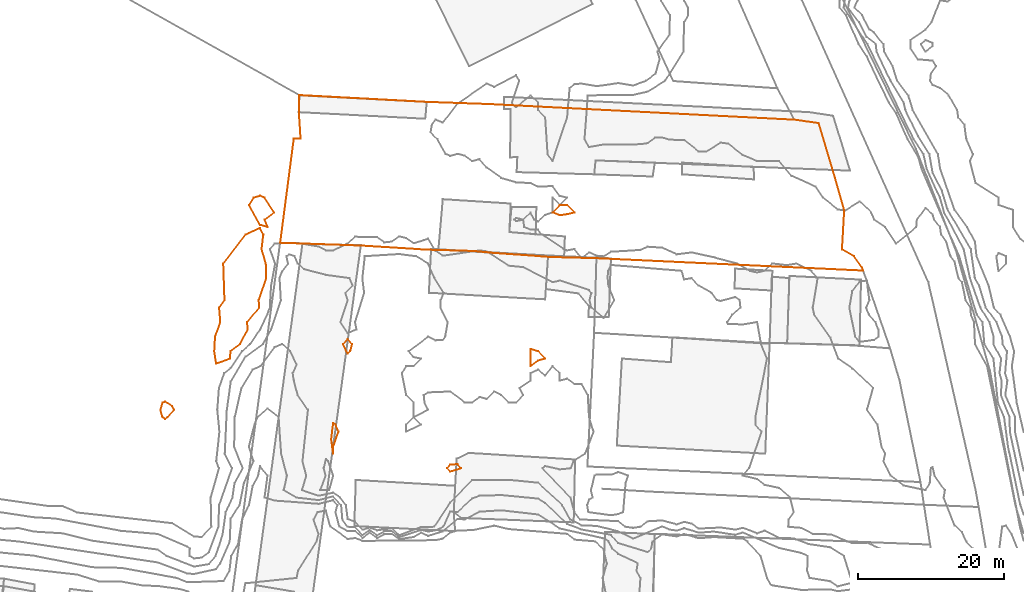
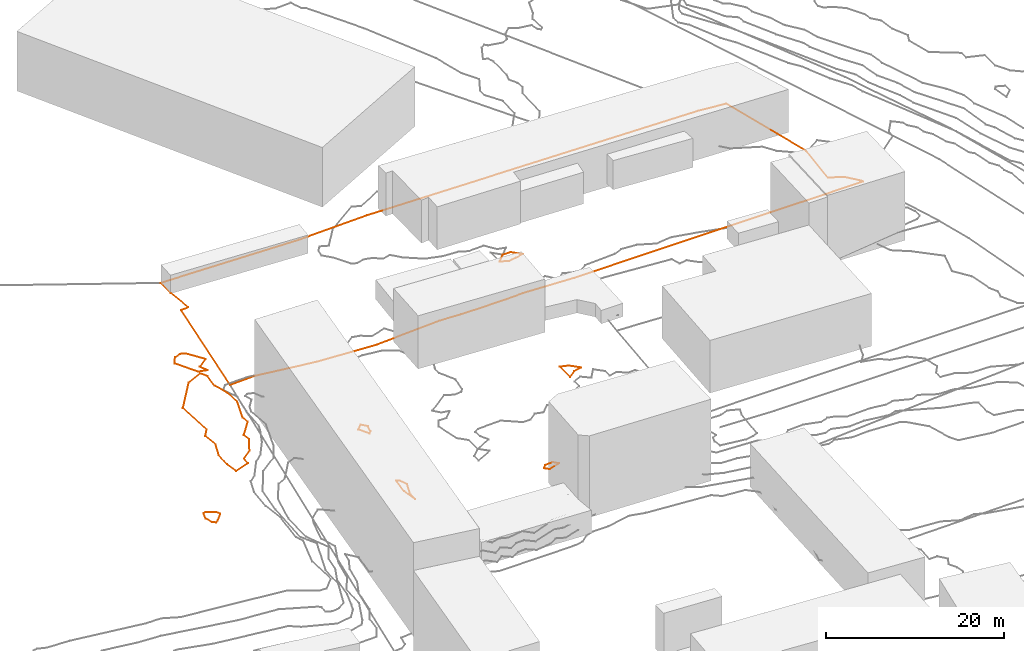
# Not in any storey, part 332 of 419: 9 proxies.
"""IFC2X3 model written with IfcOpenShell, lengths in metres."""

from ifc_helpers import new_model, entity, si_unit, frame, origin_with_axes, place, context, subcontext, project, element, save


model = new_model("IFC2X3")

# Units and contexts
model_context = context("Model", 3, precision=1e-05, world=origin_with_axes())
body_context = subcontext(model_context, "Body", "Model", "MODEL_VIEW")
ifc_project = project(units=[si_unit("AREAUNIT", "SQUARE_METRE"), si_unit("LENGTHUNIT", "METRE")], contexts=[model_context])

# Proxies
proxy_1_placement = place(None, frame((525.8420204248, 958.7376909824, 49.6969004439), z_axis=(0.0, 0.0, 1.0), x_axis=(1.0, 0.0, 0.0)))
element("IfcBuildingElementProxy", 1, at=proxy_1_placement, Name="Cadastre 275", ObjectType="NOTDEFINED", context=body_context, shape_type="GeometricCurveSet", body=[
    entity("IfcGeometricCurveSet", [entity("IfcPolyline", [entity("IfcCartesianPoint", [2.62, 20.2000000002, 0.783397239]), entity("IfcCartesianPoint", [20.01, 19.2700000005, 1.1748405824]), entity("IfcCartesianPoint", [28.66, 18.9700000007, 1.6812932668]), entity("IfcCartesianPoint", [70.3300000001, 16.8300000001, 2.7082691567]), entity("IfcCartesianPoint", [73.66, 16.3700000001, 2.7848041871]), entity("IfcCartesianPoint", [75.9, 8.8700000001, 2.4298698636]), entity("IfcCartesianPoint", [77.15, 4.5100000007, 2.2882003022]), entity("IfcCartesianPoint", [76.84, -0.8999999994, 2.0283280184]), entity("IfcCartesianPoint", [78.47, -1.8399999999, 2.0852997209]), entity("IfcCartesianPoint", [79.5800000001, -3.3700000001, 2.1694090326]), entity("IfcCartesianPoint", [79.75, -3.7999999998, 2.2390999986]), entity("IfcCartesianPoint", [43.27, -2.1099999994, 0.7771266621]), entity("IfcCartesianPoint", [36.8, -1.9399999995, 0.8673004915]), entity("IfcCartesianPoint", [34.63, -1.7699999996, 0.6467991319]), entity("IfcCartesianPoint", [29.09, -1.3799999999, 0.3148993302]), entity("IfcCartesianPoint", [26.4300000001, -1.1200000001, 0.2225002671]), entity("IfcCartesianPoint", [19.6800000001, -0.9299999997, -0.3013186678]), entity("IfcCartesianPoint", [18.49, -0.8399999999, -0.4497998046]), entity("IfcCartesianPoint", [11.05, -0.3799999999, -0.4568604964]), entity("IfcCartesianPoint", [3.0700000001, -0.0999999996, 0.2156106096]), entity("IfcCartesianPoint", [0.0, 0.0, 0.0]), entity("IfcCartesianPoint", [1.87, 14.25, 0.957575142]), entity("IfcCartesianPoint", [2.8, 14.2800000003, 0.9773985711]), entity("IfcCartesianPoint", [2.5700000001, 17.8200000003, 0.8871875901]), entity("IfcCartesianPoint", [2.62, 20.2000000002, 0.783397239])])]),
])
proxy_2_placement = place(None, frame((563.0920704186, 962.8976909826, 51.0), z_axis=(0.0, 0.0, 1.0), x_axis=(1.0, 0.0, 0.0)))
element("IfcBuildingElementProxy", 2, at=proxy_2_placement, Name="Contour 51.0 m", ObjectType="NOTDEFINED", context=body_context, shape_type="GeometricCurveSet", body=[
    entity("IfcGeometricCurveSet", [entity("IfcPolyline", [entity("IfcCartesianPoint", [1.9999500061, -0.2499761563, 0.0]), entity("IfcCartesianPoint", [2.9998500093, 0.0, 0.0]), entity("IfcCartesianPoint", [1.9999500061, 0.999900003, 0.0]), entity("IfcCartesianPoint", [0.9999500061, 0.9999500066, 0.0]), entity("IfcCartesianPoint", [0.0, 0.0, 0.0]), entity("IfcCartesianPoint", [0.9999500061, -0.4000152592, 0.0]), entity("IfcCartesianPoint", [1.9999500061, -0.2499761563, 0.0])])]),
])
proxy_3_placement = place(None, frame((521.5920037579, 963.8976909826, 51.0), z_axis=(0.0, 0.0, 1.0), x_axis=(1.0, 0.0, 0.0)))
element("IfcBuildingElementProxy", 3, at=proxy_3_placement, Name="Contour 51.0 m", ObjectType="NOTDEFINED", context=body_context, shape_type="GeometricCurveSet", body=[
    entity("IfcGeometricCurveSet", [entity("IfcPolyline", [entity("IfcCartesianPoint", [2.5588309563, -3.0, 0.0]), entity("IfcCartesianPoint", [1.5000166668, -2.7142779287, 0.0]), entity("IfcCartesianPoint", [0.0, 0.0, 0.0]), entity("IfcCartesianPoint", [0.6428504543, 1.0, 0.0]), entity("IfcCartesianPoint", [1.5000166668, 1.285716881, 0.0]), entity("IfcCartesianPoint", [2.1000166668, 1.0, 0.0]), entity("IfcCartesianPoint", [3.4444693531, -1.0, 0.0]), entity("IfcCartesianPoint", [2.1250226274, -2.0, 0.0]), entity("IfcCartesianPoint", [2.5588309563, -3.0, 0.0])])]),
])
proxy_4_placement = place(None, frame((534.4253537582, 944.8976909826, 49.0), z_axis=(0.0, 0.0, 1.0), x_axis=(1.0, 0.0, 0.0)))
element("IfcBuildingElementProxy", 4, at=proxy_4_placement, Name="Contour 49.0 m", ObjectType="NOTDEFINED", context=body_context, shape_type="GeometricCurveSet", body=[
    entity("IfcGeometricCurveSet", [entity("IfcPolyline", [entity("IfcCartesianPoint", [0.9999858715, -1.0, 0.0]), entity("IfcCartesianPoint", [0.6666666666, -1.3333192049, 0.0]), entity("IfcCartesianPoint", [0.0, 0.0, 0.0]), entity("IfcCartesianPoint", [0.6666666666, 0.666666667, 0.0]), entity("IfcCartesianPoint", [1.2381108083, 0.0, 0.0]), entity("IfcCartesianPoint", [0.9999858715, -1.0, 0.0])])]),
])
proxy_5_placement = place(None, frame((560.0920204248, 941.8977909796, 49.0), z_axis=(0.0, 0.0, 1.0), x_axis=(1.0, 0.0, 0.0)))
element("IfcBuildingElementProxy", 5, at=proxy_5_placement, Name="Contour 49.0 m", ObjectType="NOTDEFINED", context=body_context, shape_type="GeometricCurveSet", body=[
    entity("IfcGeometricCurveSet", [entity("IfcPolyline", [entity("IfcCartesianPoint", [1.0, 0.7499238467, 0.0]), entity("IfcCartesianPoint", [1.9999000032, 0.999900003, 0.0]), entity("IfcCartesianPoint", [0.9999000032, 1.999900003, 0.0]), entity("IfcCartesianPoint", [0.0, 2.3331909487, 0.0]), entity("IfcCartesianPoint", [0.0, 0.0, 0.0]), entity("IfcCartesianPoint", [1.0, 0.7499238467, 0.0])])]),
])
proxy_6_placement = place(None, frame((516.8311443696, 943.8976909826, 51.0), z_axis=(0.0, 0.0, 1.0), x_axis=(1.0, 0.0, 0.0)))
element("IfcBuildingElementProxy", 6, at=proxy_6_placement, Name="Contour 51.0 m", ObjectType="NOTDEFINED", context=body_context, shape_type="GeometricCurveSet", body=[
    entity("IfcGeometricCurveSet", [entity("IfcPolyline", [entity("IfcCartesianPoint", [2.1894591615, -1.0, 0.0]), entity("IfcCartesianPoint", [0.2608760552, -1.666666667, 0.0]), entity("IfcCartesianPoint", [0.0, 0.0, 0.0]), entity("IfcCartesianPoint", [0.11087987, 2.0, 0.0]), entity("IfcCartesianPoint", [0.8275380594, 4.0, 0.0]), entity("IfcCartesianPoint", [0.6726434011, 6.0, 0.0]), entity("IfcCartesianPoint", [1.4037357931, 7.0, 0.0]), entity("IfcCartesianPoint", [1.2314692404, 12.0, 0.0]), entity("IfcCartesianPoint", [4.2608760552, 15.9523887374, 0.0]), entity("IfcCartesianPoint", [6.2608760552, 16.8823516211, 0.0]), entity("IfcCartesianPoint", [6.7154236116, 16.0, 0.0]), entity("IfcCartesianPoint", [6.4729968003, 14.0, 0.0]), entity("IfcCartesianPoint", [7.0530841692, 12.0, 0.0]), entity("IfcCartesianPoint", [7.1164306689, 10.0, 0.0]), entity("IfcCartesianPoint", [6.0772029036, 7.0, 0.0]), entity("IfcCartesianPoint", [6.16563623, 6.0, 0.0]), entity("IfcCartesianPoint", [4.4942089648, 4.0, 0.0]), entity("IfcCartesianPoint", [4.584407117, 3.0, 0.0]), entity("IfcCartesianPoint", [3.5033045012, 1.0, 0.0]), entity("IfcCartesianPoint", [2.2053287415, 0.0, 0.0]), entity("IfcCartesianPoint", [2.1894591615, -1.0, 0.0])])]),
])
proxy_7_placement = place(None, frame((509.4670293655, 935.8976909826, 51.0), z_axis=(0.0, 0.0, 1.0), x_axis=(1.0, 0.0, 0.0)))
element("IfcBuildingElementProxy", 7, at=proxy_7_placement, Name="Contour 51.0 m", ObjectType="NOTDEFINED", context=body_context, shape_type="GeometricCurveSet", body=[
    entity("IfcGeometricCurveSet", [entity("IfcPolyline", [entity("IfcCartesianPoint", [0.9779361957, -1.0, 0.0]), entity("IfcCartesianPoint", [0.6249910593, -1.2400054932, 0.0]), entity("IfcCartesianPoint", [0.2720459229, -1.0, 0.0]), entity("IfcCartesianPoint", [0.0, 0.0, 0.0]), entity("IfcCartesianPoint", [0.2916577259, 1.0, 0.0]), entity("IfcCartesianPoint", [0.6249910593, 1.100001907, 0.0]), entity("IfcCartesianPoint", [1.6249910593, 0.5000083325, 0.0]), entity("IfcCartesianPoint", [1.8977230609, 0.0, 0.0]), entity("IfcCartesianPoint", [0.9779361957, -1.0, 0.0])])]),
])
proxy_8_placement = place(None, frame((532.8227890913, 931.8976909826, 49.0), z_axis=(0.0, 0.0, 1.0), x_axis=(1.0, 0.0, 0.0)))
element("IfcBuildingElementProxy", 8, at=proxy_8_placement, Name="Contour 49.0 m", ObjectType="NOTDEFINED", context=body_context, shape_type="GeometricCurveSet", body=[
    entity("IfcGeometricCurveSet", [entity("IfcPolyline", [entity("IfcCartesianPoint", [0.2692390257, -2.0, 0.0]), entity("IfcCartesianPoint", [0.0, 0.0, 0.0]), entity("IfcCartesianPoint", [0.2692313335, 2.1999694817, 0.0]), entity("IfcCartesianPoint", [0.6025222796, 2.0, 0.0]), entity("IfcCartesianPoint", [0.9835092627, 1.0, 0.0]), entity("IfcCartesianPoint", [0.2692390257, -1.0, 0.0]), entity("IfcCartesianPoint", [0.2692390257, -2.0, 0.0])])]),
])
proxy_9_placement = place(None, frame((548.6475665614, 927.8976909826, 49.0), z_axis=(0.0, 0.0, 1.0), x_axis=(1.0, 0.0, 0.0)))
element("IfcBuildingElementProxy", 9, at=proxy_9_placement, Name="Contour 49.0 m", ObjectType="NOTDEFINED", context=body_context, shape_type="GeometricCurveSet", body=[
    entity("IfcGeometricCurveSet", [entity("IfcPolyline", [entity("IfcCartesianPoint", [1.9444663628, 0.0, 0.0]), entity("IfcCartesianPoint", [0.4444538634, -0.4444538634, 0.0]), entity("IfcCartesianPoint", [0.0, 0.0, 0.0]), entity("IfcCartesianPoint", [0.4444538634, 0.5000124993, 0.0]), entity("IfcCartesianPoint", [1.4444538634, 0.5714441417, 0.0]), entity("IfcCartesianPoint", [1.9444663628, 0.0, 0.0])])]),
])

save(model, "model.ifc")
